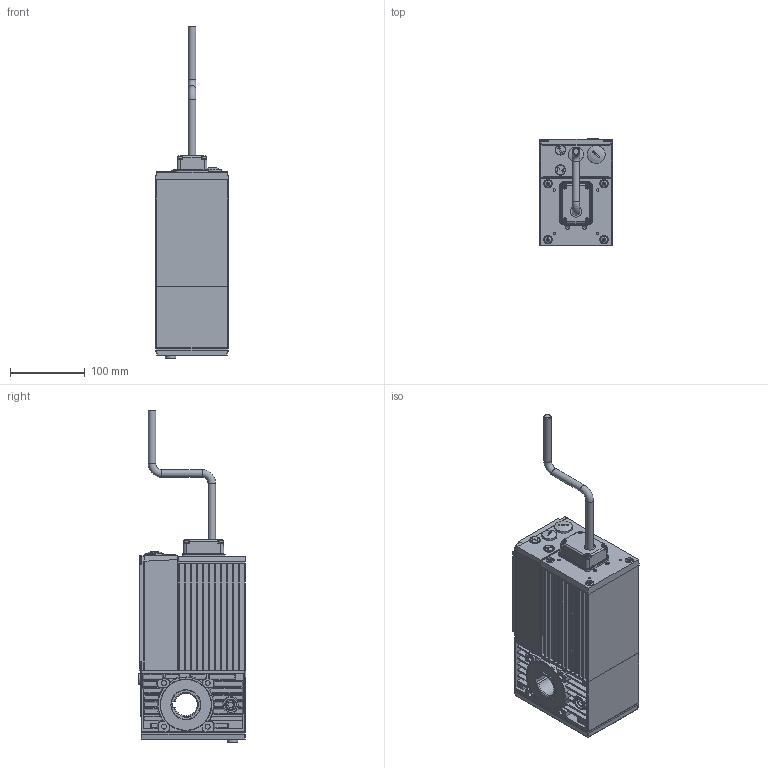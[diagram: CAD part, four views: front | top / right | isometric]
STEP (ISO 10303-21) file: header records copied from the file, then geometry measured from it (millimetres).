
FILE_DESCRIPTION(/* description */ (''),/* implementation_level */ '2;1');
FILE_NAME(/* name */ '2023-10-11___Rev. _mwid.STEP',/* time_stamp */ '2023-10-11T08:59:01+02:00',/* author */ ('WillmannM'),/* organization */ (''),/* preprocessor_version */ 'ST-DEVELOPER v20',/* originating_system */ 'Autodesk Inventor 2024',/* authorisation */ '');
FILE_SCHEMA (('AUTOMOTIVE_DESIGN { 1 0 10303 214 3 1 1 }'));
Products named in the file (1): Bauteil3
Bounding box: 99 x 143.56 x 444.5 mm (x, y, z)
Volume: 1257814.4 mm3; surface area: 451407.9 mm2
Topology: 7 solids, 30 shells, 1863 faces, 4554 edges, 2871 vertices
Faces by surface type: plane 1046, cylinder 428, cone 246, torus 84, bspline 43, sphere 16
Full cylindrical faces by diameter (mm): 2.5 x8, 3 x4, 3.242 x4, 3.6 x4, 3.65 x4, 4 x4, 4.134 x8, 4.3 x8, 4.5 x4, 4.6 x4, 4.77 x2, 5 x14, 5.05 x2, 5.2 x4, 5.5 x4, 6 x4, 6.3 x8, 6.6 x2, 6.647 x8, 7 x8, 7.9 x1, 8.5 x8, 8.917 x3, 10 x4, 11 x5, 14 x4, 15 x2, 16 x1, 17.609 x1, 20 x3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
Entity records: 58472 total; most frequent: CARTESIAN_POINT 12345, DIRECTION 9427, ORIENTED_EDGE 9048, EDGE_CURVE 4524, AXIS2_PLACEMENT_3D 3435, VERTEX_POINT 2871, LINE 2557, VECTOR 2557
